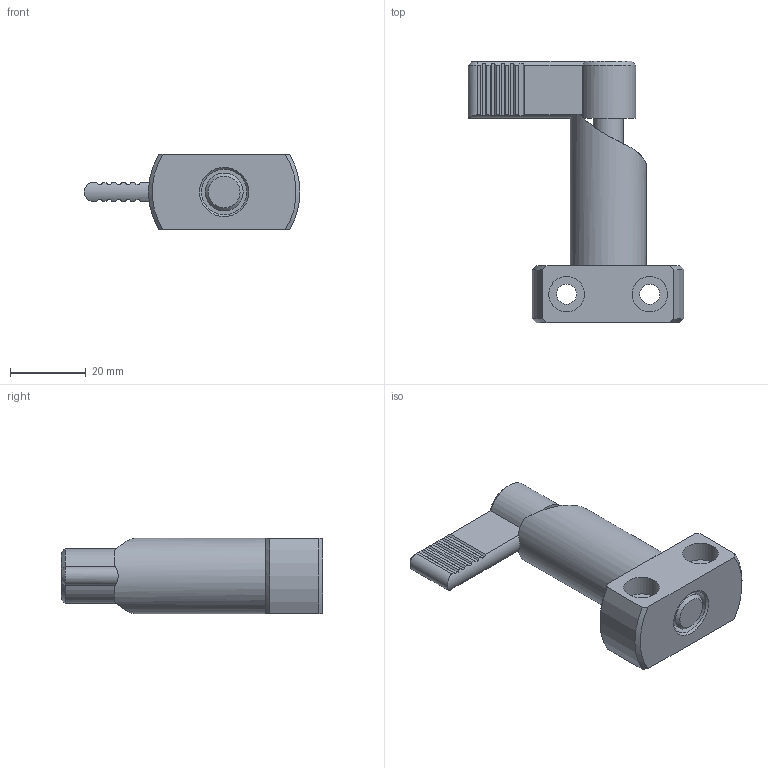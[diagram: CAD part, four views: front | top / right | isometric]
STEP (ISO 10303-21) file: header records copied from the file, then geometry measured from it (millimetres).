
FILE_DESCRIPTION( ( 'STEP AP203' ), '1' );
FILE_NAME( 'C:/Temp/Ganter_Step_05_03_2020/data/3_1/gn612_2/Indexing plunger GN 612.2-10-20-A (activated).stp', '2020-03-12T08:35:07', ( 'License CC BY-ND 4.0' ), ( 'CADENAS' ), ' ', 'PARTsolutions', ' ' );
FILE_SCHEMA( ( 'CONFIG_CONTROL_DESIGN' ) );
Length unit declared in the file: millimetre
Products named in the file (3): Indexing plunger GN 612.2-10-20-A (activated); _Rastriegel GN 612.2-10-20-A (betaetigt)-a; _Rastriegel GN 612.2-10-20-A (betaetigt)-b
Assembly tree (2 placements, depth 2):
  Indexing plunger GN 612.2-10-20-A (activated)
    _Rastriegel GN 612.2-10-20-A (betaetigt)-a
    _Rastriegel GN 612.2-10-20-A (betaetigt)-b
Bounding box: 57 x 69 x 20 mm (x, y, z)
Volume: 23439.2 mm3; surface area: 11802.2 mm2
Topology: 2 solids, 2 shells, 104 faces, 257 edges, 167 vertices
Faces by surface type: plane 64, cylinder 29, cone 10, torus 1
Full cylindrical faces by diameter (mm): 5.3 x2, 8 x2, 8.9 x1, 9.1 x1, 9.4 x4, 10 x1, 12 x2, 14.5 x1, 16 x1, 20 x1
Entity records: 3316 total; most frequent: CARTESIAN_POINT 817, DIRECTION 488, ORIENTED_EDGE 470, EDGE_CURVE 235, AXIS2_PLACEMENT_3D 178, VERTEX_POINT 165, EDGE_LOOP 140, LINE 132
